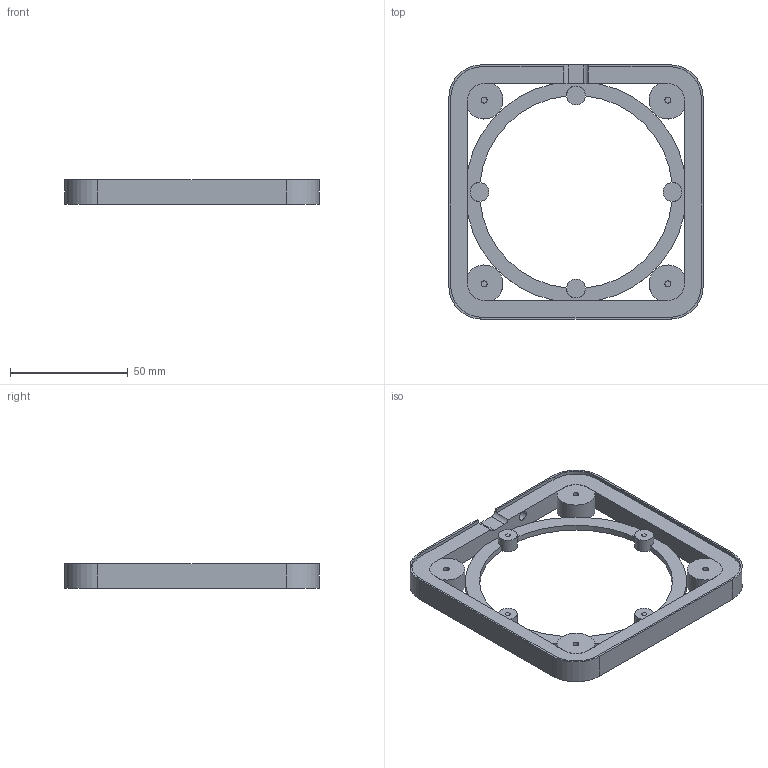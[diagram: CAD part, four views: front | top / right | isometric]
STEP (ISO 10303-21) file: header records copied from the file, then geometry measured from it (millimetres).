
FILE_DESCRIPTION(('Open CASCADE Model'),'2;1');
FILE_NAME('Open CASCADE Shape Model','2026-07-17T20:14:26',('Author'),( 'Open CASCADE'),'Open CASCADE STEP processor 7.7','Open CASCADE 7.7' ,'Unknown');
FILE_SCHEMA(('AUTOMOTIVE_DESIGN { 1 0 10303 214 1 1 1 1 }'));
Length unit declared in the file: millimetre
Products named in the file (1): Open CASCADE STEP translator 7.7 1
Bounding box: 108 x 108 x 10.3 mm (x, y, z)
Volume: 38465.7 mm3; surface area: 21150.6 mm2
Topology: 1 solids, 1 shells, 73 faces, 201 edges, 134 vertices
Faces by surface type: cylinder 39, plane 34
Full cylindrical faces by diameter (mm): 2.05 x4, 2.5 x4, 4.2 x1, 8 x4
Entity records: 4987 total; most frequent: CARTESIAN_POINT 1104, DIRECTION 696, ORIENTED_EDGE 402, PCURVE 402, DEFINITIONAL_REPRESENTATION 402, LINE 314, VECTOR 314, EDGE_CURVE 201
